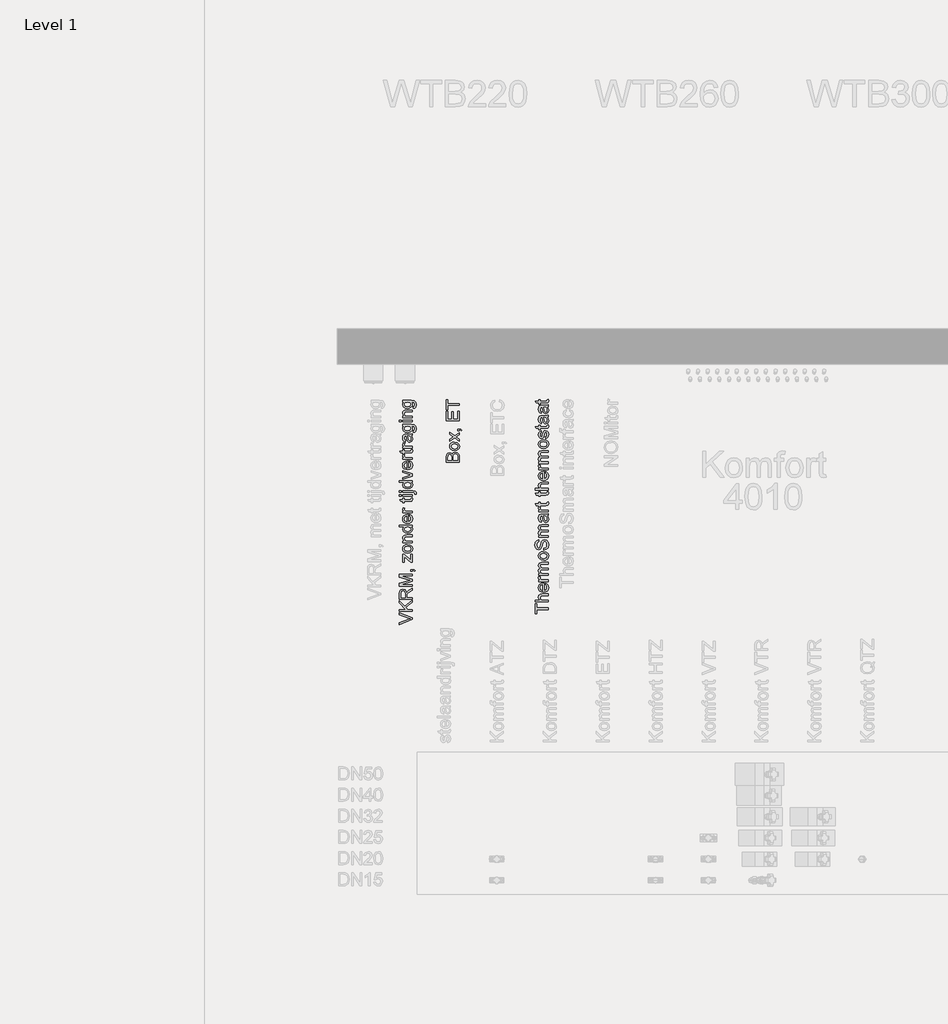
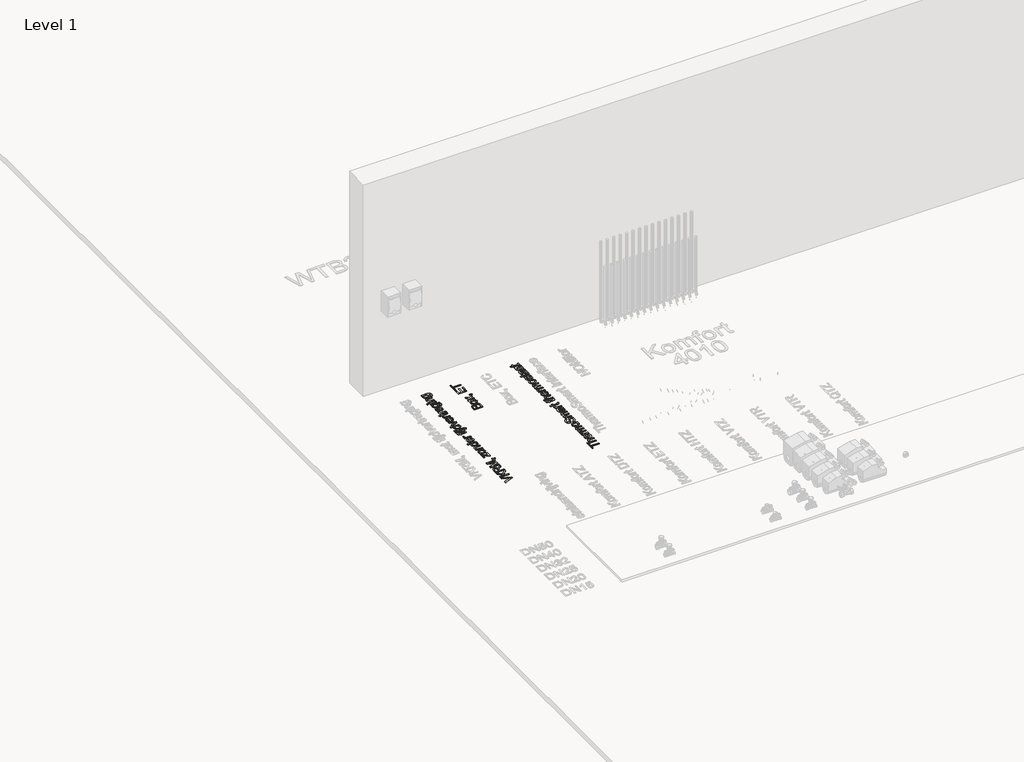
# One storey, part 14 of 34: 3 proxies.
"""IFC4 building model written with IfcOpenShell, lengths in millimetres."""

from ifc_helpers import new_model, si_unit, origin, origin_with_axes, place, context, project, spatial, polyline, outline, extrude, element, save

model = new_model("IFC4")

# Units and contexts
model_context = context("Model", 3, world=origin())
ifc_project = project(units=[si_unit("LENGTHUNIT", "METRE", prefix="MILLI")], contexts=[model_context])

# Site, building, storey
site = spatial("IfcSite", under=ifc_project)
building = spatial("IfcBuilding", under=site)
storey = spatial("IfcBuildingStorey", under=building, Name="Level 1", Elevation=0.0)

# Proxies
placement = place(None, origin())
element("IfcBuildingElementProxy", 1, Name="DN", ObjectType="DN", at=placement, inside=storey, context=model_context, shape_type="SweptSolid", body=[
    extrude(outline(polyline([(-16826.9848175, 6142.3931628), (-16900.8309713, 6113.0061436), (-16900.8309713, 6122.8859513), (-16847.6278463, 6142.5554224), (-16835.6386636, 6146.5397974), (-16847.6278463, 6150.4700859), (-16900.8309713, 6170.1936436), (-16900.8309713, 6180.0734513), (-16826.9848175, 6151.9304224), (-16826.9848175, 6142.3931628)])), origin_with_axes(), (0.0, 0.0, 1.0), 5.0),
    extrude(outline(polyline([(-16826.9848175, 6188.6551821), (-16900.8309713, 6188.6551821), (-16900.8309713, 6197.8859513), (-16864.6831348, 6197.8859513), (-16900.8309713, 6235.7465282), (-16900.8309713, 6248.6551821), (-16870.4703944, 6216.8703263), (-16826.9848175, 6249.8090282), (-16826.9848175, 6238.5229705), (-16864.2324136, 6210.3258551), (-16852.3694329, 6197.8859513), (-16826.9848175, 6197.8859513), (-16826.9848175, 6188.6551821)])), origin_with_axes(), (0.0, 0.0, 1.0), 5.0),
    extrude(outline(polyline([(-16826.9848175, 6256.7321051), (-16900.8309713, 6256.7321051), (-16900.8309713, 6288.5530186), (-16898.8387838, 6303.327658), (-16891.789505, 6311.4045811), (-16880.6206348, 6314.4244128), (-16867.3153463, 6309.421408), (-16860.4463559, 6293.9616724), (-16856.4980386, 6299.2080667), (-16846.9968367, 6306.6900378), (-16826.9848175, 6319.0037397), (-16826.9848175, 6308.2765763), (-16842.2913079, 6298.6672013), (-16852.4235194, 6291.7260955), (-16857.210178, 6286.8492926), (-16858.9679905, 6282.4592686), (-16859.2925098, 6277.1047013), (-16859.2925098, 6265.9628744), (-16826.9848175, 6265.9628744), (-16826.9848175, 6256.7321051)]), holes=[polyline([(-16868.523279, 6265.9628744), (-16868.523279, 6286.6239321), (-16869.8303704, 6297.1617926), (-16874.0130627, 6303.1473696), (-16880.2780867, 6305.1936436), (-16888.4090963, 6301.2903984), (-16891.6002021, 6288.9496532), (-16891.6002021, 6265.9628744), (-16868.523279, 6265.9628744)])]), origin_with_axes(), (0.0, 0.0, 1.0), 5.0),
    extrude(outline(polyline([(-16826.9848175, 6330.578259), (-16900.8309713, 6330.578259), (-16900.8309713, 6346.4616724), (-16848.7816925, 6361.5698455), (-16837.9102982, 6364.6167205), (-16849.6831348, 6367.9159994), (-16900.8309713, 6382.7717686), (-16900.8309713, 6398.6551821), (-16826.9848175, 6398.6551821), (-16826.9848175, 6389.4244128), (-16891.6002021, 6389.4244128), (-16826.9848175, 6370.8727301), (-16826.9848175, 6358.3607109), (-16891.6002021, 6339.8090282), (-16826.9848175, 6339.8090282), (-16826.9848175, 6330.578259)])), origin_with_axes(), (0.0, 0.0, 1.0), 5.0),
    extrude(outline(polyline([(-16826.9848175, 6415.9628744), (-16836.2155867, 6415.9628744), (-16836.2155867, 6425.1936436), (-16826.9848175, 6425.1936436), (-16817.5467165, 6423.5349897), (-16811.9848175, 6418.2705667), (-16815.4463559, 6415.9628744), (-16819.4307309, 6419.3522974), (-16826.9848175, 6420.5602301), (-16826.9848175, 6415.9628744)])), origin_with_axes(), (0.0, 0.0, 1.0), 5.0),
    extrude(outline(polyline([(-16826.9848175, 6465.578259), (-16835.6747213, 6465.578259), (-16871.9848175, 6497.4352301), (-16871.9848175, 6488.0061436), (-16871.9848175, 6467.8859513), (-16881.2155867, 6467.8859513), (-16881.2155867, 6510.578259), (-16873.3730386, 6510.578259), (-16841.1554905, 6482.3270571), (-16836.2155867, 6478.000134), (-16836.2155867, 6488.6732109), (-16836.2155867, 6511.7321051), (-16826.9848175, 6511.7321051), (-16826.9848175, 6465.578259)])), origin_with_axes(), (0.0, 0.0, 1.0), 5.0),
    extrude(outline(polyline([(-16854.1002021, 6518.6551821), (-16867.1756228, 6520.6518768), (-16876.3658271, 6526.6419609), (-16880.8685314, 6534.0428022), (-16882.3694329, 6542.9039801), (-16880.5417586, 6552.6012458), (-16875.0587357, 6560.3468888), (-16866.3530567, 6565.4242626), (-16854.8574136, 6567.1167205), (-16838.4331348, 6564.1239321), (-16829.1392646, 6555.4069849), (-16825.8309713, 6542.9039801), (-16827.6518848, 6533.089527), (-16833.1146252, 6525.3528984), (-16842.0028463, 6520.3296111), (-16854.1002021, 6518.6551821)]), holes=[polyline([(-16854.1182309, 6527.8859513), (-16839.8123415, 6532.1587878), (-16835.0617405, 6542.9039801), (-16839.8393848, 6553.6131147), (-16854.4066925, 6557.8859513), (-16868.3880627, 6553.5860715), (-16873.1386636, 6542.9039801), (-16868.4060915, 6532.1587878), (-16854.1182309, 6527.8859513)])]), origin_with_axes(), (0.0, 0.0, 1.0), 5.0),
    extrude(outline(polyline([(-16826.9848175, 6577.5013359), (-16881.2155867, 6577.5013359), (-16881.2155867, 6586.7321051), (-16873.6434713, 6586.7321051), (-16880.1879425, 6593.7903984), (-16882.3694329, 6603.4268167), (-16880.6116204, 6612.1437638), (-16875.9962357, 6618.093283), (-16869.2083752, 6620.8607109), (-16860.2840963, 6621.3474897), (-16826.9848175, 6621.3474897), (-16826.9848175, 6612.1167205), (-16859.0401059, 6612.1167205), (-16867.2071732, 6611.0530186), (-16871.5250819, 6607.2940042), (-16873.1386636, 6600.9568647), (-16869.5148655, 6590.9418407), (-16855.7588559, 6586.7321051), (-16826.9848175, 6586.7321051), (-16826.9848175, 6577.5013359)])), origin_with_axes(), (0.0, 0.0, 1.0), 5.0),
    extrude(outline(polyline([(-16826.9848175, 6667.5013359), (-16835.6927502, 6667.5013359), (-16828.296416, 6661.3940643), (-16825.8309713, 6652.9520571), (-16829.4006829, 6641.5217686), (-16839.3616204, 6633.4448455), (-16854.0461155, 6630.578259), (-16868.7396252, 6633.2194849), (-16878.8538079, 6641.1341484), (-16882.3694329, 6652.9159994), (-16879.8544088, 6661.4256147), (-16873.3189521, 6667.5013359), (-16900.8309713, 6667.5013359), (-16900.8309713, 6676.7321051), (-16826.9848175, 6676.7321051), (-16826.9848175, 6667.5013359)]), holes=[polyline([(-16854.0821732, 6639.8090282), (-16839.7943127, 6643.9736917), (-16835.0617405, 6653.7994128), (-16839.5779665, 6663.5079465), (-16853.3790482, 6667.5013359), (-16868.3610194, 6663.4358311), (-16873.1386636, 6653.4208071), (-16868.5503223, 6643.703259), (-16854.0821732, 6639.8090282)])]), origin_with_axes(), (0.0, 0.0, 1.0), 5.0),
    extrude(outline(polyline([(-16843.1386636, 6728.547009), (-16841.9848175, 6737.5974897), (-16830.0677502, 6729.1329465), (-16825.8309713, 6713.3667205), (-16827.6586456, 6702.5358912), (-16833.1416684, 6694.2020571), (-16841.9239701, 6688.8880547), (-16853.6494809, 6687.1167205), (-16865.7693728, 6688.9060835), (-16874.8333752, 6694.2741724), (-16880.4854184, 6702.4953263), (-16882.3694329, 6712.843884), (-16880.4899256, 6722.870176), (-16874.851404, 6730.8817446), (-16865.8054305, 6736.1348996), (-16853.7035675, 6737.8859513), (-16851.2155867, 6737.8318647), (-16851.2155867, 6696.3474897), (-16839.226404, 6701.6569849), (-16835.0617405, 6713.547009), (-16836.9908271, 6722.5974897), (-16843.1386636, 6728.547009)]), holes=[polyline([(-16860.4463559, 6696.3474897), (-16860.4463559, 6728.6551821), (-16868.8117405, 6724.9592686), (-16873.1386636, 6712.8078263), (-16869.6861396, 6701.4406388), (-16860.4463559, 6696.3474897)])]), origin_with_axes(), (0.0, 0.0, 1.0), 5.0),
    extrude(outline(polyline([(-16826.9848175, 6747.1167205), (-16881.2155867, 6747.1167205), (-16881.2155867, 6755.1936436), (-16873.1927502, 6755.1936436), (-16880.5845771, 6760.9268167), (-16882.3694329, 6766.6960474), (-16879.5208752, 6775.9628744), (-16871.2456348, 6772.8799417), (-16873.1386636, 6766.3895571), (-16871.3177502, 6761.1702061), (-16866.2696732, 6757.843884), (-16855.4884232, 6756.3474897), (-16826.9848175, 6756.3474897), (-16826.9848175, 6747.1167205)])), origin_with_axes(), (0.0, 0.0, 1.0), 5.0),
    extrude(outline(polyline([(-16834.6831348, 6830.1936436), (-16826.7143848, 6831.3474897), (-16825.8309713, 6824.4424417), (-16827.3634232, 6816.7080667), (-16831.3838559, 6812.8498936), (-16841.8586155, 6811.7321051), (-16871.9848175, 6811.7321051), (-16871.9848175, 6804.8090282), (-16881.2155867, 6804.8090282), (-16881.2155867, 6811.7321051), (-16894.3946732, 6811.7321051), (-16899.8213559, 6820.9628744), (-16881.2155867, 6820.9628744), (-16881.2155867, 6830.1936436), (-16871.9848175, 6830.1936436), (-16871.9848175, 6820.9628744), (-16842.1290482, 6820.9628744), (-16837.3694329, 6821.4496532), (-16835.6837357, 6823.0271772), (-16835.0617405, 6826.1732109), (-16834.6831348, 6830.1936436)])), origin_with_axes(), (0.0, 0.0, 1.0), 5.0),
    extrude(outline(polyline([(-16826.9848175, 6839.4244128), (-16881.2155867, 6839.4244128), (-16881.2155867, 6848.6551821), (-16826.9848175, 6848.6551821), (-16826.9848175, 6839.4244128)])), origin_with_axes(), (0.0, 0.0, 1.0), 5.0),
    extrude(outline(polyline([(-16891.6002021, 6839.4244128), (-16900.8309713, 6839.4244128), (-16900.8309713, 6848.6551821), (-16891.6002021, 6848.6551821), (-16891.6002021, 6839.4244128)])), origin_with_axes(), (0.0, 0.0, 1.0), 5.0),
    extrude(outline(polyline([(-16806.179529, 6850.8727301), (-16814.9595771, 6852.8198455), (-16814.2925098, 6857.0566244), (-16816.1224377, 6861.1581869), (-16825.2720771, 6862.5013359), (-16881.2155867, 6862.5013359), (-16881.2155867, 6871.7321051), (-16824.0821732, 6871.7321051), (-16810.163904, 6869.1179224), (-16806.3372814, 6864.7008551), (-16805.0617405, 6858.0842686), (-16806.179529, 6850.8727301)])), origin_with_axes(), (0.0, 0.0, 1.0), 5.0),
    extrude(outline(polyline([(-16891.6002021, 6862.5013359), (-16900.8309713, 6862.5013359), (-16900.8309713, 6871.7321051), (-16891.6002021, 6871.7321051), (-16891.6002021, 6862.5013359)])), origin_with_axes(), (0.0, 0.0, 1.0), 5.0),
    extrude(outline(polyline([(-16826.9848175, 6919.0397974), (-16835.6927502, 6919.0397974), (-16828.296416, 6912.9325258), (-16825.8309713, 6904.4905186), (-16829.4006829, 6893.0602301), (-16839.3616204, 6884.9833071), (-16854.0461155, 6882.1167205), (-16868.7396252, 6884.7579465), (-16878.8538079, 6892.6726099), (-16882.3694329, 6904.4544609), (-16879.8544088, 6912.9640763), (-16873.3189521, 6919.0397974), (-16900.8309713, 6919.0397974), (-16900.8309713, 6928.2705667), (-16826.9848175, 6928.2705667), (-16826.9848175, 6919.0397974)]), holes=[polyline([(-16854.0821732, 6891.3474897), (-16839.7943127, 6895.5121532), (-16835.0617405, 6905.3378744), (-16839.5779665, 6915.046408), (-16853.3790482, 6919.0397974), (-16868.3610194, 6914.9742926), (-16873.1386636, 6904.9592686), (-16868.5503223, 6895.2417205), (-16854.0821732, 6891.3474897)])]), origin_with_axes(), (0.0, 0.0, 1.0), 5.0),
    extrude(outline(polyline([(-16826.9848175, 6955.422009), (-16881.2155867, 6936.3474897), (-16881.2155867, 6946.1191244), (-16848.7276059, 6957.6756147), (-16837.8021252, 6961.1551821), (-16848.1146252, 6964.562634), (-16881.2155867, 6976.1912397), (-16881.2155867, 6985.9628744), (-16826.9848175, 6967.1227301), (-16826.9848175, 6955.422009)])), origin_with_axes(), (0.0, 0.0, 1.0), 5.0),
    extrude(outline(polyline([(-16843.1386636, 7032.0085474), (-16841.9848175, 7041.0590282), (-16830.0677502, 7032.5944849), (-16825.8309713, 7016.828259), (-16827.6586456, 7005.9974297), (-16833.1416684, 6997.6635955), (-16841.9239701, 6992.3495931), (-16853.6494809, 6990.578259), (-16865.7693728, 6992.367622), (-16874.8333752, 6997.7357109), (-16880.4854184, 7005.9568647), (-16882.3694329, 7016.3054224), (-16880.4899256, 7026.3317145), (-16874.851404, 7034.343283), (-16865.8054305, 7039.5964381), (-16853.7035675, 7041.3474897), (-16851.2155867, 7041.2934032), (-16851.2155867, 6999.8090282), (-16839.226404, 7005.1185234), (-16835.0617405, 7017.0085474), (-16836.9908271, 7026.0590282), (-16843.1386636, 7032.0085474)]), holes=[polyline([(-16860.4463559, 6999.8090282), (-16860.4463559, 7032.1167205), (-16868.8117405, 7028.4208071), (-16873.1386636, 7016.2693647), (-16869.6861396, 7004.9021772), (-16860.4463559, 6999.8090282)])]), origin_with_axes(), (0.0, 0.0, 1.0), 5.0),
    extrude(outline(polyline([(-16826.9848175, 7050.578259), (-16881.2155867, 7050.578259), (-16881.2155867, 7058.6551821), (-16873.1927502, 7058.6551821), (-16880.5845771, 7064.3883551), (-16882.3694329, 7070.1575859), (-16879.5208752, 7079.4244128), (-16871.2456348, 7076.3414801), (-16873.1386636, 7069.8510955), (-16871.3177502, 7064.6317446), (-16866.2696732, 7061.3054224), (-16855.4884232, 7059.8090282), (-16826.9848175, 7059.8090282), (-16826.9848175, 7050.578259)])), origin_with_axes(), (0.0, 0.0, 1.0), 5.0),
    extrude(outline(polyline([(-16834.6831348, 7104.8090282), (-16826.7143848, 7105.9628744), (-16825.8309713, 7099.0578263), (-16827.3634232, 7091.3234513), (-16831.3838559, 7087.4652782), (-16841.8586155, 7086.3474897), (-16871.9848175, 7086.3474897), (-16871.9848175, 7079.4244128), (-16881.2155867, 7079.4244128), (-16881.2155867, 7086.3474897), (-16894.3946732, 7086.3474897), (-16899.8213559, 7095.578259), (-16881.2155867, 7095.578259), (-16881.2155867, 7104.8090282), (-16871.9848175, 7104.8090282), (-16871.9848175, 7095.578259), (-16842.1290482, 7095.578259), (-16837.3694329, 7096.0650378), (-16835.6837357, 7097.6425619), (-16835.0617405, 7100.7885955), (-16834.6831348, 7104.8090282)])), origin_with_axes(), (0.0, 0.0, 1.0), 5.0),
    extrude(outline(polyline([(-16826.9848175, 7114.0397974), (-16881.2155867, 7114.0397974), (-16881.2155867, 7122.1167205), (-16873.1927502, 7122.1167205), (-16880.5845771, 7127.8498936), (-16882.3694329, 7133.6191244), (-16879.5208752, 7142.8859513), (-16871.2456348, 7139.8030186), (-16873.1386636, 7133.312634), (-16871.3177502, 7128.093283), (-16866.2696732, 7124.7669609), (-16855.4884232, 7123.2705667), (-16826.9848175, 7123.2705667), (-16826.9848175, 7114.0397974)])), origin_with_axes(), (0.0, 0.0, 1.0), 5.0),
    extrude(outline(polyline([(-16833.9078944, 7183.2705667), (-16827.6518848, 7174.3192446), (-16825.8309713, 7164.4304224), (-16830.2119809, 7151.0259753), (-16841.4078944, 7146.3474897), (-16848.7095771, 7148.1143167), (-16854.0100579, 7152.7567446), (-16857.038904, 7159.2200859), (-16858.4271252, 7167.2068647), (-16861.6002021, 7183.2164801), (-16863.6554905, 7183.2705667), (-16870.4703944, 7180.7284994), (-16873.1386636, 7170.5241724), (-16871.3628223, 7161.1852301), (-16865.0617405, 7156.7321051), (-16866.2155867, 7147.5013359), (-16875.2300098, 7151.4947253), (-16880.5124617, 7159.5355907), (-16882.3694329, 7171.7140763), (-16880.7288079, 7182.9009753), (-16876.6092165, 7189.2200859), (-16870.3441925, 7192.0506147), (-16862.2672694, 7192.5013359), (-16850.7828944, 7192.5013359), (-16834.7462357, 7192.9700859), (-16826.9848175, 7194.8090282), (-16826.9848175, 7185.578259), (-16833.9078944, 7183.2705667)]), holes=[polyline([(-16852.3694329, 7183.2705667), (-16849.538904, 7168.3787397), (-16848.0425098, 7160.437033), (-16845.6086155, 7156.8402782), (-16842.0569329, 7155.578259), (-16837.0629425, 7158.327658), (-16835.0617405, 7166.3955667), (-16837.2702742, 7175.734509), (-16842.6158271, 7181.7561436), (-16849.7552502, 7183.2164801), (-16852.3694329, 7183.2705667)])]), origin_with_axes(), (0.0, 0.0, 1.0), 5.0),
    extrude(outline(polyline([(-16822.3694329, 7202.8859513), (-16821.2155867, 7212.1167205), (-16816.3477982, 7215.109509), (-16814.2925098, 7224.0698455), (-16816.6182309, 7233.5169609), (-16823.1446732, 7238.0241724), (-16833.9078944, 7238.6551821), (-16828.7155867, 7232.155783), (-16826.9848175, 7224.2321051), (-16828.999541, 7214.715128), (-16835.0437117, 7207.6185234), (-16843.9048896, 7203.2037097), (-16854.3706348, 7201.7321051), (-16868.6765242, 7204.3733311), (-16878.7997213, 7212.0175619), (-16882.3694329, 7223.781384), (-16880.3502021, 7232.0160595), (-16874.2925098, 7238.6551821), (-16881.2155867, 7238.6551821), (-16881.2155867, 7247.8859513), (-16834.3946732, 7247.8859513), (-16816.4649857, 7245.3619128), (-16808.1266444, 7237.3661196), (-16805.0617405, 7223.8895571), (-16809.3796492, 7208.5379946), (-16814.7860494, 7204.1998035), (-16822.3694329, 7202.8859513)]), holes=[polyline([(-16855.0016444, 7210.9628744), (-16840.7137838, 7214.9021772), (-16836.2155867, 7224.7909994), (-16840.6867405, 7234.6617926), (-16854.7312117, 7238.6551821), (-16868.4962357, 7234.5446051), (-16873.1386636, 7224.6467686), (-16868.5683511, 7214.9562638), (-16855.0016444, 7210.9628744)])]), origin_with_axes(), (0.0, 0.0, 1.0), 5.0),
    extrude(outline(polyline([(-16891.6002021, 7261.7321051), (-16900.8309713, 7261.7321051), (-16900.8309713, 7270.9628744), (-16891.6002021, 7270.9628744), (-16891.6002021, 7261.7321051)])), origin_with_axes(), (0.0, 0.0, 1.0), 5.0),
    extrude(outline(polyline([(-16826.9848175, 7261.7321051), (-16881.2155867, 7261.7321051), (-16881.2155867, 7270.9628744), (-16826.9848175, 7270.9628744), (-16826.9848175, 7261.7321051)])), origin_with_axes(), (0.0, 0.0, 1.0), 5.0),
    extrude(outline(polyline([(-16826.9848175, 7284.8090282), (-16881.2155867, 7284.8090282), (-16881.2155867, 7294.0397974), (-16873.6434713, 7294.0397974), (-16880.1879425, 7301.0980907), (-16882.3694329, 7310.734509), (-16880.6116204, 7319.4514561), (-16875.9962357, 7325.4009753), (-16869.2083752, 7328.1684032), (-16860.2840963, 7328.6551821), (-16826.9848175, 7328.6551821), (-16826.9848175, 7319.4244128), (-16859.0401059, 7319.4244128), (-16867.2071732, 7318.3607109), (-16871.5250819, 7314.6016965), (-16873.1386636, 7308.2645571), (-16869.5148655, 7298.249533), (-16855.7588559, 7294.0397974), (-16826.9848175, 7294.0397974), (-16826.9848175, 7284.8090282)])), origin_with_axes(), (0.0, 0.0, 1.0), 5.0),
    extrude(outline(polyline([(-16822.3694329, 7339.0397974), (-16821.2155867, 7348.2705667), (-16816.3477982, 7351.2633551), (-16814.2925098, 7360.2236917), (-16816.6182309, 7369.6708071), (-16823.1446732, 7374.1780186), (-16833.9078944, 7374.8090282), (-16828.7155867, 7368.3096292), (-16826.9848175, 7360.3859513), (-16828.999541, 7350.8689741), (-16835.0437117, 7343.7723696), (-16843.9048896, 7339.3575559), (-16854.3706348, 7337.8859513), (-16868.6765242, 7340.5271772), (-16878.7997213, 7348.171408), (-16882.3694329, 7359.9352301), (-16880.3502021, 7368.1699056), (-16874.2925098, 7374.8090282), (-16881.2155867, 7374.8090282), (-16881.2155867, 7384.0397974), (-16834.3946732, 7384.0397974), (-16816.4649857, 7381.515759), (-16808.1266444, 7373.5199657), (-16805.0617405, 7360.0434032), (-16809.3796492, 7344.6918407), (-16814.7860494, 7340.3536496), (-16822.3694329, 7339.0397974)]), holes=[polyline([(-16855.0016444, 7347.1167205), (-16840.7137838, 7351.0560234), (-16836.2155867, 7360.9448455), (-16840.6867405, 7370.8156388), (-16854.7312117, 7374.8090282), (-16868.4962357, 7370.6984513), (-16873.1386636, 7360.8006147), (-16868.5683511, 7351.1101099), (-16855.0016444, 7347.1167205)])]), origin_with_axes(), (0.0, 0.0, 1.0), 5.0),
])
element("IfcBuildingElementProxy", 2, Name="DN", ObjectType="DN", at=placement, inside=storey, context=model_context, shape_type="SweptSolid", body=[
    extrude(outline(polyline([(-16561.0050414, 7034.4244128), (-16634.8511953, 7034.4244128), (-16634.8511953, 7062.6034994), (-16632.6787193, 7076.4045811), (-16625.9990318, 7084.5536196), (-16616.5519164, 7087.5013359), (-16607.9251135, 7085.0223696), (-16601.3896568, 7077.531384), (-16594.5026376, 7086.6269369), (-16583.0182626, 7089.8090282), (-16573.0933828, 7087.6365522), (-16566.0260751, 7082.2549417), (-16562.2760751, 7074.2230907), (-16561.0050414, 7062.3871532), (-16561.0050414, 7034.4244128)]), holes=[polyline([(-16570.2358106, 7043.6551821), (-16570.2358106, 7062.5854705), (-16570.5963876, 7069.4364321), (-16572.6066039, 7075.2327061), (-16576.7081664, 7079.0728503), (-16582.9281183, 7080.578259), (-16590.1035991, 7078.8114321), (-16594.3854501, 7073.0872734), (-16595.620426, 7061.6840282), (-16595.620426, 7043.6551821), (-16570.2358106, 7043.6551821)]), polyline([(-16604.8511953, 7043.6551821), (-16604.8511953, 7060.5121532), (-16605.6444645, 7070.3559032), (-16609.0609308, 7076.2783792), (-16615.073551, 7078.2705667), (-16621.0951856, 7076.4135955), (-16624.6558828, 7071.0950859), (-16625.620426, 7059.2321051), (-16625.620426, 7043.6551821), (-16604.8511953, 7043.6551821)])]), origin_with_axes(), (0.0, 0.0, 1.0), 5.0),
    extrude(outline(polyline([(-16588.120426, 7099.0397974), (-16601.1958467, 7101.0364922), (-16610.386051, 7107.0265763), (-16614.8887554, 7114.4274176), (-16616.3896568, 7123.2885955), (-16614.5619825, 7132.9858611), (-16609.0789597, 7140.7315042), (-16600.3732806, 7145.808878), (-16588.8776376, 7147.5013359), (-16572.4533587, 7144.5085474), (-16563.1594885, 7135.7916003), (-16559.8511953, 7123.2885955), (-16561.6721087, 7113.4741424), (-16567.1348491, 7105.7375138), (-16576.0230703, 7100.7142265), (-16588.120426, 7099.0397974)]), holes=[polyline([(-16588.1384549, 7108.2705667), (-16573.8325655, 7112.5434032), (-16569.0819645, 7123.2885955), (-16573.8596087, 7133.9977301), (-16588.4269164, 7138.2705667), (-16602.4082866, 7133.9706869), (-16607.1588876, 7123.2885955), (-16602.4263155, 7112.5434032), (-16588.1384549, 7108.2705667)])]), origin_with_axes(), (0.0, 0.0, 1.0), 5.0),
    extrude(outline(polyline([(-16561.0050414, 7152.1167205), (-16588.2646568, 7171.8402782), (-16615.2358106, 7153.2705667), (-16615.2358106, 7164.3763359), (-16602.2550414, 7173.3366724), (-16596.1252337, 7177.5193647), (-16601.137253, 7181.1431628), (-16615.2358106, 7191.3474897), (-16615.2358106, 7202.453259), (-16588.2646568, 7182.9460474), (-16561.0050414, 7201.7321051), (-16561.0050414, 7190.6263359), (-16577.3932626, 7179.3222494), (-16580.386051, 7177.2489321), (-16561.0050414, 7163.2224897), (-16561.0050414, 7152.1167205)])), origin_with_axes(), (0.0, 0.0, 1.0), 5.0),
    extrude(outline(polyline([(-16561.0050414, 7212.1167205), (-16570.2358106, 7212.1167205), (-16570.2358106, 7221.3474897), (-16561.0050414, 7221.3474897), (-16551.5669405, 7219.6888359), (-16546.0050414, 7214.4244128), (-16549.4665799, 7212.1167205), (-16553.4509549, 7215.5061436), (-16561.0050414, 7216.7140763), (-16561.0050414, 7212.1167205)])), origin_with_axes(), (0.0, 0.0, 1.0), 5.0),
    extrude(outline(polyline([(-16561.0050414, 7268.6551821), (-16634.8511953, 7268.6551821), (-16634.8511953, 7321.7321051), (-16625.620426, 7321.7321051), (-16625.620426, 7277.8859513), (-16603.6973491, 7277.8859513), (-16603.6973491, 7319.4244128), (-16594.4665799, 7319.4244128), (-16594.4665799, 7277.8859513), (-16570.2358106, 7277.8859513), (-16570.2358106, 7322.8859513), (-16561.0050414, 7322.8859513), (-16561.0050414, 7268.6551821)])), origin_with_axes(), (0.0, 0.0, 1.0), 5.0),
    extrude(outline(polyline([(-16561.0050414, 7355.1936436), (-16625.620426, 7355.1936436), (-16625.620426, 7330.9628744), (-16634.8511953, 7330.9628744), (-16634.8511953, 7388.6551821), (-16625.620426, 7388.6551821), (-16625.620426, 7364.4244128), (-16561.0050414, 7364.4244128), (-16561.0050414, 7355.1936436)])), origin_with_axes(), (0.0, 0.0, 1.0), 5.0),
])
element("IfcBuildingElementProxy", 3, Name="DN", ObjectType="DN", at=placement, inside=storey, context=model_context, shape_type="SweptSolid", body=[
    extrude(outline(polyline([(-16056.0050414, 6198.4365988), (-16121.929495, 6198.4365988), (-16121.929495, 6173.7149287), (-16131.347274, 6173.7149287), (-16131.347274, 6232.576048), (-16121.929495, 6232.576048), (-16121.929495, 6207.8543779), (-16056.0050414, 6207.8543779), (-16056.0050414, 6198.4365988)])), origin_with_axes(), (0.0, 0.0, 1.0), 5.0),
    extrude(outline(polyline([(-16056.0050414, 6241.993827), (-16131.347274, 6241.993827), (-16131.347274, 6251.4116061), (-16103.6457598, 6251.4116061), (-16110.2952269, 6258.7554504), (-16112.5117159, 6267.800749), (-16110.0928918, 6278.3773564), (-16103.4066365, 6284.7968972), (-16091.0274074, 6286.7282776), (-16056.0050414, 6286.7282776), (-16056.0050414, 6277.3104986), (-16090.0525201, 6277.3104986), (-16099.9853339, 6274.3122603), (-16103.0939368, 6265.8141862), (-16100.9970094, 6258.0978614), (-16095.3132326, 6252.9475134), (-16085.3988128, 6251.4116061), (-16056.0050414, 6251.4116061), (-16056.0050414, 6241.993827)])), origin_with_axes(), (0.0, 0.0, 1.0), 5.0),
    extrude(outline(polyline([(-16072.4861548, 6338.415698), (-16071.3089324, 6347.649536), (-16059.1504325, 6339.0135062), (-16054.827819, 6322.927866), (-16056.6925209, 6311.8776105), (-16062.2866265, 6303.3749379), (-16071.2468523, 6297.953277), (-16083.209915, 6296.1460567), (-16095.5753485, 6297.9716711), (-16104.8229822, 6303.4485143), (-16110.5895325, 6311.8362238), (-16112.5117159, 6322.3944371), (-16110.594131, 6332.6238558), (-16104.8413763, 6340.7977339), (-16095.6121367, 6346.1573147), (-16083.2650973, 6347.9438416), (-16080.7267115, 6347.8886593), (-16080.7267115, 6305.5638358), (-16068.4946352, 6310.9808982), (-16064.2455981, 6323.111807), (-16066.2137668, 6332.345645), (-16072.4861548, 6338.415698)]), holes=[polyline([(-16090.1444906, 6305.5638358), (-16090.1444906, 6338.5260626), (-16098.6793529, 6334.7552721), (-16103.0939368, 6322.3576489), (-16099.5714667, 6310.760169), (-16090.1444906, 6305.5638358)])]), origin_with_axes(), (0.0, 0.0, 1.0), 5.0),
    extrude(outline(polyline([(-16056.0050414, 6357.3616207), (-16111.3344935, 6357.3616207), (-16111.3344935, 6365.6021774), (-16103.1491191, 6365.6021774), (-16110.6907, 6371.4515011), (-16112.5117159, 6377.3376131), (-16109.6054481, 6386.7921803), (-16101.1625563, 6383.6467893), (-16103.0939368, 6377.0249134), (-16101.2361327, 6371.6998215), (-16096.0857848, 6368.3061101), (-16085.0861131, 6366.7793998), (-16056.0050414, 6366.7793998), (-16056.0050414, 6357.3616207)])), origin_with_axes(), (0.0, 0.0, 1.0), 5.0),
    extrude(outline(polyline([(-16056.0050414, 6392.6782923), (-16111.3344935, 6392.6782923), (-16111.3344935, 6402.0960713), (-16102.2294141, 6402.0960713), (-16109.6882216, 6408.5707944), (-16112.5117159, 6417.7862384), (-16109.6330393, 6427.2224116), (-16101.5672265, 6432.4095477), (-16109.7755935, 6439.7579906), (-16112.5117159, 6449.0378139), (-16107.9591762, 6461.3526637), (-16093.9336751, 6465.6660801), (-16056.0050414, 6465.6660801), (-16056.0050414, 6456.248301), (-16089.8869732, 6456.248301), (-16097.7504508, 6455.3745813), (-16101.6224088, 6452.2107961), (-16103.0939368, 6446.8305219), (-16099.3231463, 6437.5690927), (-16087.2382228, 6433.8810757), (-16056.0050414, 6433.8810757), (-16056.0050414, 6424.4632966), (-16090.9354369, 6424.4632966), (-16100.0589103, 6422.2835958), (-16103.0939368, 6415.1374881), (-16101.0705858, 6408.1661242), (-16095.1476857, 6403.5308111), (-16083.9088907, 6402.0960713), (-16056.0050414, 6402.0960713), (-16056.0050414, 6392.6782923)])), origin_with_axes(), (0.0, 0.0, 1.0), 5.0),
    extrude(outline(polyline([(-16083.6697675, 6477.4383039), (-16097.0100883, 6479.4754505), (-16106.3864807, 6485.5868901), (-16110.9804071, 6493.1376681), (-16112.5117159, 6502.1783681), (-16110.647014, 6512.0720945), (-16105.0529084, 6519.9746596), (-16096.1708575, 6525.154898), (-16084.4423196, 6526.8816441), (-16067.6852948, 6523.8282235), (-16058.2031363, 6514.9346763), (-16054.827819, 6502.1783681), (-16056.6856231, 6492.1650801), (-16062.2590353, 6484.271712), (-16071.3273265, 6479.146656), (-16083.6697675, 6477.4383039)]), holes=[polyline([(-16083.6881616, 6486.856083), (-16069.0924434, 6491.2154847), (-16064.2455981, 6502.1783681), (-16069.1200345, 6513.1044634), (-16083.9824671, 6517.463865), (-16098.2470915, 6513.0768722), (-16103.0939368, 6502.1783681), (-16098.2654856, 6491.2154847), (-16083.6881616, 6486.856083)])]), origin_with_axes(), (0.0, 0.0, 1.0), 5.0),
    extrude(outline(polyline([(-16081.9039339, 6535.1222008), (-16081.9039339, 6544.5399799), (-16072.4769577, 6547.5750063), (-16066.5172694, 6554.9878285), (-16064.2455981, 6566.2818058), (-16065.9654464, 6576.1226491), (-16070.6927301, 6582.4778106), (-16077.0111033, 6584.5655409), (-16082.8880182, 6583.0020425), (-16087.1646464, 6576.6008957), (-16090.7606929, 6562.8880944), (-16095.4052031, 6548.1268293), (-16102.4133551, 6540.1161989), (-16111.7759519, 6537.4766456), (-16122.4353327, 6540.7415983), (-16129.9585195, 6550.278939), (-16132.5244964, 6564.2400607), (-16129.8389578, 6579.1392815), (-16121.9478891, 6589.0720954), (-16110.1572711, 6592.8060976), (-16110.1572711, 6583.3883186), (-16119.8325676, 6578.0540296), (-16123.1067173, 6564.6079427), (-16119.8693558, 6551.1250676), (-16112.0518634, 6546.8944246), (-16105.521958, 6549.8926629), (-16100.2612454, 6565.2701303), (-16095.5339618, 6581.9351847), (-16087.9004104, 6591.0494611), (-16077.2502266, 6593.98332), (-16065.9838405, 6590.6080027), (-16057.7616779, 6580.895918), (-16054.827819, 6566.6496878), (-16057.9916042, 6549.8282835), (-16067.5197479, 6539.1872968), (-16081.9039339, 6535.1222008)])), origin_with_axes(), (0.0, 0.0, 1.0), 5.0),
    extrude(outline(polyline([(-16056.0050414, 6606.9327662), (-16111.3344935, 6606.9327662), (-16111.3344935, 6616.3505453), (-16102.2294141, 6616.3505453), (-16109.6882216, 6622.8252684), (-16112.5117159, 6632.0407124), (-16109.6330393, 6641.4768856), (-16101.5672265, 6646.6640217), (-16109.7755935, 6654.0124646), (-16112.5117159, 6663.2922879), (-16107.9591762, 6675.6071377), (-16093.9336751, 6679.9205541), (-16056.0050414, 6679.9205541), (-16056.0050414, 6670.502775), (-16089.8869732, 6670.502775), (-16097.7504508, 6669.6290553), (-16101.6224088, 6666.4652701), (-16103.0939368, 6661.0849959), (-16099.3231463, 6651.8235667), (-16087.2382228, 6648.1355497), (-16056.0050414, 6648.1355497), (-16056.0050414, 6638.7177706), (-16090.9354369, 6638.7177706), (-16100.0589103, 6636.5380698), (-16103.0939368, 6629.391962), (-16101.0705858, 6622.4205982), (-16095.1476857, 6617.7852851), (-16083.9088907, 6616.3505453), (-16056.0050414, 6616.3505453), (-16056.0050414, 6606.9327662)])), origin_with_axes(), (0.0, 0.0, 1.0), 5.0),
    extrude(outline(polyline([(-16063.0683757, 6729.3638942), (-16056.6856231, 6720.2312237), (-16054.827819, 6710.14206), (-16059.2975853, 6696.4660468), (-16070.7203212, 6691.6927779), (-16078.1699316, 6693.4953997), (-16083.577797, 6698.2318804), (-16086.6680057, 6704.8261652), (-16088.0843514, 6712.9747514), (-16091.321713, 6729.3087119), (-16093.4186403, 6729.3638942), (-16100.37161, 6726.7703262), (-16103.0939368, 6716.3592657), (-16101.282118, 6706.831122), (-16094.8533801, 6702.2877794), (-16096.0306025, 6692.8700003), (-16105.2276524, 6696.9442934), (-16110.6171236, 6705.1480619), (-16112.5117159, 6717.5732763), (-16110.8378528, 6728.9868152), (-16106.634801, 6735.4339472), (-16100.2428513, 6738.3218208), (-16092.0022946, 6738.7816733), (-16080.2852531, 6738.7816733), (-16063.9237014, 6739.2599199), (-16056.0050414, 6741.1361181), (-16056.0050414, 6731.718339), (-16063.0683757, 6729.3638942)]), holes=[polyline([(-16081.9039339, 6729.3638942), (-16079.0160602, 6714.1703678), (-16077.4893499, 6706.0677669), (-16075.0061465, 6702.398144), (-16071.3825088, 6701.110557), (-16066.2873432, 6703.9156572), (-16064.2455981, 6712.1470169), (-16066.4988753, 6721.6751605), (-16071.9527259, 6727.8187899), (-16079.2367894, 6729.3087119), (-16081.9039339, 6729.3638942)])]), origin_with_axes(), (0.0, 0.0, 1.0), 5.0),
    extrude(outline(polyline([(-16056.0050414, 6751.7311195), (-16111.3344935, 6751.7311195), (-16111.3344935, 6759.9716762), (-16103.1491191, 6759.9716762), (-16110.6907, 6765.821), (-16112.5117159, 6771.7071119), (-16109.6054481, 6781.1616792), (-16101.1625563, 6778.0162881), (-16103.0939368, 6771.3944122), (-16101.2361327, 6766.0693203), (-16096.0857848, 6762.6756089), (-16085.0861131, 6761.1488986), (-16056.0050414, 6761.1488986), (-16056.0050414, 6751.7311195)])), origin_with_axes(), (0.0, 0.0, 1.0), 5.0),
    extrude(outline(polyline([(-16063.859322, 6807.0605716), (-16055.7291299, 6808.237794), (-16054.827819, 6801.1928538), (-16056.3913175, 6793.301785), (-16060.4932018, 6789.3654477), (-16071.1801737, 6788.2250135), (-16101.9167144, 6788.2250135), (-16101.9167144, 6781.1616792), (-16111.3344935, 6781.1616792), (-16111.3344935, 6788.2250135), (-16124.7805804, 6788.2250135), (-16130.3172044, 6797.6427925), (-16111.3344935, 6797.6427925), (-16111.3344935, 6807.0605716), (-16101.9167144, 6807.0605716), (-16101.9167144, 6797.6427925), (-16071.4560852, 6797.6427925), (-16066.6000429, 6798.1394332), (-16064.8801945, 6799.748917), (-16064.2455981, 6802.9586874), (-16063.859322, 6807.0605716)])), origin_with_axes(), (0.0, 0.0, 1.0), 5.0),
    extrude(outline(polyline([(-16063.859322, 6865.9216908), (-16055.7291299, 6867.0989132), (-16054.827819, 6860.053973), (-16056.3913175, 6852.1629042), (-16060.4932018, 6848.2265669), (-16071.1801737, 6847.0861327), (-16101.9167144, 6847.0861327), (-16101.9167144, 6840.0227984), (-16111.3344935, 6840.0227984), (-16111.3344935, 6847.0861327), (-16124.7805804, 6847.0861327), (-16130.3172044, 6856.5039118), (-16111.3344935, 6856.5039118), (-16111.3344935, 6865.9216908), (-16101.9167144, 6865.9216908), (-16101.9167144, 6856.5039118), (-16071.4560852, 6856.5039118), (-16066.6000429, 6857.0005525), (-16064.8801945, 6858.6100362), (-16064.2455981, 6861.8198066), (-16063.859322, 6865.9216908)])), origin_with_axes(), (0.0, 0.0, 1.0), 5.0),
    extrude(outline(polyline([(-16056.0050414, 6875.3394699), (-16131.347274, 6875.3394699), (-16131.347274, 6884.757249), (-16103.6457598, 6884.757249), (-16110.2952269, 6892.1010933), (-16112.5117159, 6901.1463919), (-16110.0928918, 6911.7229992), (-16103.4066365, 6918.1425401), (-16091.0274074, 6920.0739205), (-16056.0050414, 6920.0739205), (-16056.0050414, 6910.6561415), (-16090.0525201, 6910.6561415), (-16099.9853339, 6907.6579032), (-16103.0939368, 6899.1598291), (-16100.9970094, 6891.4435043), (-16095.3132326, 6886.2931563), (-16085.3988128, 6884.757249), (-16056.0050414, 6884.757249), (-16056.0050414, 6875.3394699)])), origin_with_axes(), (0.0, 0.0, 1.0), 5.0),
    extrude(outline(polyline([(-16072.4861548, 6971.7613409), (-16071.3089324, 6980.9951789), (-16059.1504325, 6972.3591491), (-16054.827819, 6956.2735089), (-16056.6925209, 6945.2232534), (-16062.2866265, 6936.7205808), (-16071.2468523, 6931.2989199), (-16083.209915, 6929.4916996), (-16095.5753485, 6931.317314), (-16104.8229822, 6936.7941572), (-16110.5895325, 6945.1818667), (-16112.5117159, 6955.74008), (-16110.594131, 6965.9694987), (-16104.8413763, 6974.1433768), (-16095.6121367, 6979.5029576), (-16083.2650973, 6981.2894845), (-16080.7267115, 6981.2343022), (-16080.7267115, 6938.9094787), (-16068.4946352, 6944.3265411), (-16064.2455981, 6956.4574499), (-16066.2137668, 6965.6912879), (-16072.4861548, 6971.7613409)]), holes=[polyline([(-16090.1444906, 6938.9094787), (-16090.1444906, 6971.8717055), (-16098.6793529, 6968.100915), (-16103.0939368, 6955.7032918), (-16099.5714667, 6944.1058119), (-16090.1444906, 6938.9094787)])]), origin_with_axes(), (0.0, 0.0, 1.0), 5.0),
    extrude(outline(polyline([(-16056.0050414, 6990.7072636), (-16111.3344935, 6990.7072636), (-16111.3344935, 6998.9478203), (-16103.1491191, 6998.9478203), (-16110.6907, 7004.797144), (-16112.5117159, 7010.683256), (-16109.6054481, 7020.1378232), (-16101.1625563, 7016.9924322), (-16103.0939368, 7010.3705563), (-16101.2361327, 7005.0454644), (-16096.0857848, 7001.651753), (-16085.0861131, 7000.1250427), (-16056.0050414, 7000.1250427), (-16056.0050414, 6990.7072636)])), origin_with_axes(), (0.0, 0.0, 1.0), 5.0),
    extrude(outline(polyline([(-16056.0050414, 7026.0239351), (-16111.3344935, 7026.0239351), (-16111.3344935, 7035.4417142), (-16102.2294141, 7035.4417142), (-16109.6882216, 7041.9164373), (-16112.5117159, 7051.1318813), (-16109.6330393, 7060.5680545), (-16101.5672265, 7065.7551906), (-16109.7755935, 7073.1036335), (-16112.5117159, 7082.3834568), (-16107.9591762, 7094.6983066), (-16093.9336751, 7099.011723), (-16056.0050414, 7099.011723), (-16056.0050414, 7089.5939439), (-16089.8869732, 7089.5939439), (-16097.7504508, 7088.7202242), (-16101.6224088, 7085.556439), (-16103.0939368, 7080.1761648), (-16099.3231463, 7070.9147356), (-16087.2382228, 7067.2267186), (-16056.0050414, 7067.2267186), (-16056.0050414, 7057.8089395), (-16090.9354369, 7057.8089395), (-16100.0589103, 7055.6292387), (-16103.0939368, 7048.483131), (-16101.0705858, 7041.5117671), (-16095.1476857, 7036.876454), (-16083.9088907, 7035.4417142), (-16056.0050414, 7035.4417142), (-16056.0050414, 7026.0239351)])), origin_with_axes(), (0.0, 0.0, 1.0), 5.0),
    extrude(outline(polyline([(-16083.6697675, 7110.7839468), (-16097.0100883, 7112.8210934), (-16106.3864807, 7118.932533), (-16110.9804071, 7126.483311), (-16112.5117159, 7135.524011), (-16110.647014, 7145.4177374), (-16105.0529084, 7153.3203025), (-16096.1708575, 7158.5005409), (-16084.4423196, 7160.227287), (-16067.6852948, 7157.1738664), (-16058.2031363, 7148.2803192), (-16054.827819, 7135.524011), (-16056.6856231, 7125.510723), (-16062.2590353, 7117.6173549), (-16071.3273265, 7112.4922989), (-16083.6697675, 7110.7839468)]), holes=[polyline([(-16083.6881616, 7120.2017259), (-16069.0924434, 7124.5611276), (-16064.2455981, 7135.524011), (-16069.1200345, 7146.4501063), (-16083.9824671, 7150.8095079), (-16098.2470915, 7146.4225151), (-16103.0939368, 7135.524011), (-16098.2654856, 7124.5611276), (-16083.6881616, 7120.2017259)])]), origin_with_axes(), (0.0, 0.0, 1.0), 5.0),
    extrude(outline(polyline([(-16072.4861548, 7167.2906213), (-16073.6633772, 7176.7084004), (-16066.6736193, 7181.067802), (-16064.2455981, 7191.0557982), (-16066.4712842, 7200.6575183), (-16071.6952085, 7203.7845152), (-16075.9258515, 7200.6391242), (-16078.61139, 7190.9454336), (-16083.219112, 7176.7635827), (-16088.5993862, 7170.5739681), (-16096.1961494, 7168.4678437), (-16103.2134984, 7170.1601009), (-16108.5753785, 7174.7770199), (-16111.3620846, 7180.7642994), (-16112.5117159, 7188.8669003), (-16110.6631088, 7200.3264245), (-16105.6599137, 7207.610488), (-16097.2078249, 7210.8478495), (-16096.0306025, 7201.4300704), (-16101.2269357, 7197.8892062), (-16103.0939368, 7189.6026643), (-16101.3097091, 7180.5895554), (-16097.1526426, 7177.8856228), (-16094.4119217, 7179.0076628), (-16092.3333884, 7182.5209359), (-16090.3284316, 7190.6327339), (-16085.8954535, 7204.4558999), (-16080.8738643, 7210.8754407), (-16072.6884899, 7213.2022943), (-16063.675381, 7210.4707705), (-16057.1362786, 7202.5888987), (-16054.827819, 7190.9270395), (-16059.2791912, 7174.5011084), (-16072.4861548, 7167.2906213)])), origin_with_axes(), (0.0, 0.0, 1.0), 5.0),
    extrude(outline(polyline([(-16063.859322, 7243.8100763), (-16055.7291299, 7244.9872987), (-16054.827819, 7237.9423585), (-16056.3913175, 7230.0512897), (-16060.4932018, 7226.1149523), (-16071.1801737, 7224.9745181), (-16101.9167144, 7224.9745181), (-16101.9167144, 7217.9111838), (-16111.3344935, 7217.9111838), (-16111.3344935, 7224.9745181), (-16124.7805804, 7224.9745181), (-16130.3172044, 7234.3922972), (-16111.3344935, 7234.3922972), (-16111.3344935, 7243.8100763), (-16101.9167144, 7243.8100763), (-16101.9167144, 7234.3922972), (-16071.4560852, 7234.3922972), (-16066.6000429, 7234.8889379), (-16064.8801945, 7236.4984216), (-16064.2455981, 7239.708192), (-16063.859322, 7243.8100763)])), origin_with_axes(), (0.0, 0.0, 1.0), 5.0),
    extrude(outline(polyline([(-16063.0683757, 7288.5445269), (-16056.6856231, 7279.4118564), (-16054.827819, 7269.3226927), (-16059.2975853, 7255.6466795), (-16070.7203212, 7250.8734106), (-16078.1699316, 7252.6760324), (-16083.577797, 7257.4125131), (-16086.6680057, 7264.0067978), (-16088.0843514, 7272.155384), (-16091.321713, 7288.4893446), (-16093.4186403, 7288.5445269), (-16100.37161, 7285.9509588), (-16103.0939368, 7275.5398984), (-16101.282118, 7266.0117547), (-16094.8533801, 7261.4684121), (-16096.0306025, 7252.050633), (-16105.2276524, 7256.1249261), (-16110.6171236, 7264.3286946), (-16112.5117159, 7276.753909), (-16110.8378528, 7288.1674479), (-16106.634801, 7294.6145798), (-16100.2428513, 7297.5024535), (-16092.0022946, 7297.962306), (-16080.2852531, 7297.962306), (-16063.9237014, 7298.4405526), (-16056.0050414, 7300.3167508), (-16056.0050414, 7290.8989717), (-16063.0683757, 7288.5445269)]), holes=[polyline([(-16081.9039339, 7288.5445269), (-16079.0160602, 7273.3510005), (-16077.4893499, 7265.2483996), (-16075.0061465, 7261.5787767), (-16071.3825088, 7260.2911897), (-16066.2873432, 7263.0962899), (-16064.2455981, 7271.3276495), (-16066.4988753, 7280.8557932), (-16071.9527259, 7286.9994225), (-16079.2367894, 7288.4893446), (-16081.9039339, 7288.5445269)])]), origin_with_axes(), (0.0, 0.0, 1.0), 5.0),
    extrude(outline(polyline([(-16063.0683757, 7346.2284238), (-16056.6856231, 7337.0957532), (-16054.827819, 7327.0065895), (-16059.2975853, 7313.3305763), (-16070.7203212, 7308.5573074), (-16078.1699316, 7310.3599292), (-16083.577797, 7315.0964099), (-16086.6680057, 7321.6906947), (-16088.0843514, 7329.8392809), (-16091.321713, 7346.1732415), (-16093.4186403, 7346.2284238), (-16100.37161, 7343.6348557), (-16103.0939368, 7333.2237952), (-16101.282118, 7323.6956515), (-16094.8533801, 7319.1523089), (-16096.0306025, 7309.7345298), (-16105.2276524, 7313.8088229), (-16110.6171236, 7322.0125914), (-16112.5117159, 7334.4378058), (-16110.8378528, 7345.8513447), (-16106.634801, 7352.2984767), (-16100.2428513, 7355.1863503), (-16092.0022946, 7355.6462028), (-16080.2852531, 7355.6462028), (-16063.9237014, 7356.1244494), (-16056.0050414, 7358.0006476), (-16056.0050414, 7348.5828685), (-16063.0683757, 7346.2284238)]), holes=[polyline([(-16081.9039339, 7346.2284238), (-16079.0160602, 7331.0348974), (-16077.4893499, 7322.9322964), (-16075.0061465, 7319.2626735), (-16071.3825088, 7317.9750865), (-16066.2873432, 7320.7801867), (-16064.2455981, 7329.0115464), (-16066.4988753, 7338.5396901), (-16071.9527259, 7344.6833194), (-16079.2367894, 7346.1732415), (-16081.9039339, 7346.2284238)])]), origin_with_axes(), (0.0, 0.0, 1.0), 5.0),
    extrude(outline(polyline([(-16063.859322, 7388.6084296), (-16055.7291299, 7389.785652), (-16054.827819, 7382.7407118), (-16056.3913175, 7374.849643), (-16060.4932018, 7370.9133056), (-16071.1801737, 7369.7728714), (-16101.9167144, 7369.7728714), (-16101.9167144, 7362.7095371), (-16111.3344935, 7362.7095371), (-16111.3344935, 7369.7728714), (-16124.7805804, 7369.7728714), (-16130.3172044, 7379.1906505), (-16111.3344935, 7379.1906505), (-16111.3344935, 7388.6084296), (-16101.9167144, 7388.6084296), (-16101.9167144, 7379.1906505), (-16071.4560852, 7379.1906505), (-16066.6000429, 7379.6872912), (-16064.8801945, 7381.2967749), (-16064.2455981, 7384.5065453), (-16063.859322, 7388.6084296)])), origin_with_axes(), (0.0, 0.0, 1.0), 5.0),
])

save(model, "model.ifc")
